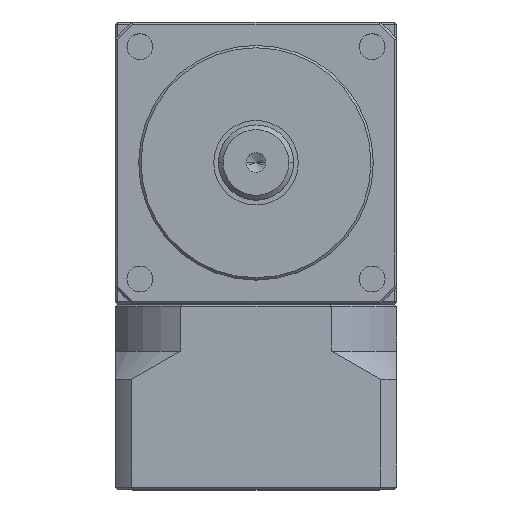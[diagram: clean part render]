
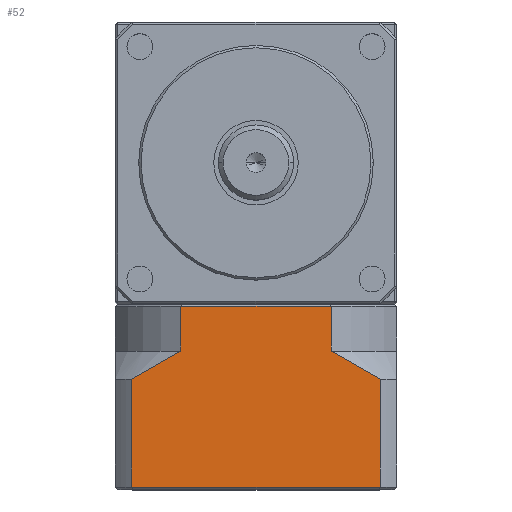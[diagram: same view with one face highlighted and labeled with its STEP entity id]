
A CAD part, top view. The second image highlights one B-rep face of the part: STEP entity #52.
In plain terms, the highlighted planar face has unit normal (0, 0, 1).
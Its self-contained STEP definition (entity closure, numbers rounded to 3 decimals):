
#52 = ADVANCED_FACE ( 'NONE', ( #3529 ), #5152, .F. ) ;
#1469 = AXIS2_PLACEMENT_3D ( 'NONE', #5127, #5137, #5184 ) ;
#1486 = CARTESIAN_POINT ( 'NONE',  ( 16., -40., -17. ) ) ;
#1534 = CARTESIAN_POINT ( 'NONE',  ( -26.458, -69., -17. ) ) ;
#1538 = CARTESIAN_POINT ( 'NONE',  ( -16., -30.5, -17. ) ) ;
#1540 = CARTESIAN_POINT ( 'NONE',  ( 26.458, -69., -17. ) ) ;
#1541 = CARTESIAN_POINT ( 'NONE',  ( 26.458, -46., -17. ) ) ;
#1549 = CARTESIAN_POINT ( 'NONE',  ( -26.458, -46., -17. ) ) ;
#1551 = CARTESIAN_POINT ( 'NONE',  ( -16., -40., -17. ) ) ;
#1553 = CARTESIAN_POINT ( 'NONE',  ( 16., -30.5, -17. ) ) ;
#1935 = VERTEX_POINT ( 'NONE', #1486 ) ;
#1941 = VERTEX_POINT ( 'NONE', #1534 ) ;
#1945 = VERTEX_POINT ( 'NONE', #1538 ) ;
#2419 = ORIENTED_EDGE ( 'NONE', *, *, #4871, .F. ) ;
#2420 = ORIENTED_EDGE ( 'NONE', *, *, #4872, .T. ) ;
#2421 = ORIENTED_EDGE ( 'NONE', *, *, #4873, .F. ) ;
#2422 = ORIENTED_EDGE ( 'NONE', *, *, #4874, .F. ) ;
#2423 = ORIENTED_EDGE ( 'NONE', *, *, #4875, .F. ) ;
#2424 = ORIENTED_EDGE ( 'NONE', *, *, #4876, .T. ) ;
#2425 = ORIENTED_EDGE ( 'NONE', *, *, #4877, .F. ) ;
#2426 = ORIENTED_EDGE ( 'NONE', *, *, #4878, .F. ) ;
#2668 = VERTEX_POINT ( 'NONE', #1540 ) ;
#2669 = VERTEX_POINT ( 'NONE', #1551 ) ;
#2670 = VERTEX_POINT ( 'NONE', #1541 ) ;
#2727 = VERTEX_POINT ( 'NONE', #1553 ) ;
#2786 = VERTEX_POINT ( 'NONE', #1549 ) ;
#3529 = FACE_OUTER_BOUND ( 'NONE', #6726, .T. ) ;
#4156 = LINE ( 'NONE', #5457, #4167 ) ;
#4164 = LINE ( 'NONE', #5466, #4169 ) ;
#4166 = LINE ( 'NONE', #5458, #4171 ) ;
#4167 = VECTOR ( 'NONE', #5465, 1000. ) ;
#4169 = VECTOR ( 'NONE', #5468, 1000. ) ;
#4170 = LINE ( 'NONE', #5480, #4175 ) ;
#4171 = VECTOR ( 'NONE', #5469, 1000. ) ;
#4172 = LINE ( 'NONE', #5478, #4173 ) ;
#4173 = VECTOR ( 'NONE', #5479, 1000. ) ;
#4174 = LINE ( 'NONE', #5482, #4177 ) ;
#4175 = VECTOR ( 'NONE', #5481, 1000. ) ;
#4177 = VECTOR ( 'NONE', #5483, 1000. ) ;
#4871 = EDGE_CURVE ( 'NONE', #1941, #2786, #4156, .T. ) ;
#4872 = EDGE_CURVE ( 'NONE', #1941, #2668, #4164, .T. ) ;
#4873 = EDGE_CURVE ( 'NONE', #2670, #2668, #4166, .T. ) ;
#4874 = EDGE_CURVE ( 'NONE', #1935, #2670, #6250, .T. ) ;
#4875 = EDGE_CURVE ( 'NONE', #2727, #1935, #4172, .T. ) ;
#4876 = EDGE_CURVE ( 'NONE', #2727, #1945, #4170, .T. ) ;
#4877 = EDGE_CURVE ( 'NONE', #2669, #1945, #4174, .T. ) ;
#4878 = EDGE_CURVE ( 'NONE', #2786, #2669, #6251, .T. ) ;
#5127 = CARTESIAN_POINT ( 'NONE',  ( 30., -69.5, -17. ) ) ;
#5137 = DIRECTION ( 'NONE',  ( 0., 0., -1. ) ) ;
#5152 = PLANE ( 'NONE',  #1469 ) ;
#5184 = DIRECTION ( 'NONE',  ( -1., 0., 0. ) ) ;
#5456 = CARTESIAN_POINT ( 'NONE',  ( 17.813, -40.853, -17. ) ) ;
#5457 = CARTESIAN_POINT ( 'NONE',  ( -26.458, -30., -17. ) ) ;
#5458 = CARTESIAN_POINT ( 'NONE',  ( 26.458, -30., -17. ) ) ;
#5465 = DIRECTION ( 'NONE',  ( 0., 1., 0. ) ) ;
#5466 = CARTESIAN_POINT ( 'NONE',  ( 26.458, -69., -17. ) ) ;
#5467 = CARTESIAN_POINT ( 'NONE',  ( 16., -40., -17. ) ) ;
#5468 = DIRECTION ( 'NONE',  ( 1., 0., 0. ) ) ;
#5469 = DIRECTION ( 'NONE',  ( 0., -1., 0. ) ) ;
#5470 = CARTESIAN_POINT ( 'NONE',  ( -24.785, -44.894, -17. ) ) ;
#5471 = CARTESIAN_POINT ( 'NONE',  ( -26.458, -46., -17. ) ) ;
#5472 = CARTESIAN_POINT ( 'NONE',  ( 19.586, -41.799, -17. ) ) ;
#5473 = CARTESIAN_POINT ( 'NONE',  ( 22.204, -43.316, -17. ) ) ;
#5474 = CARTESIAN_POINT ( 'NONE',  ( 23.068, -43.838, -17. ) ) ;
#5475 = CARTESIAN_POINT ( 'NONE',  ( 24.776, -44.902, -17. ) ) ;
#5476 = CARTESIAN_POINT ( 'NONE',  ( 25.62, -45.446, -17. ) ) ;
#5477 = CARTESIAN_POINT ( 'NONE',  ( 26.458, -46., -17. ) ) ;
#5478 = CARTESIAN_POINT ( 'NONE',  ( 16., -40., -17. ) ) ;
#5479 = DIRECTION ( 'NONE',  ( 0., -1., 0. ) ) ;
#5480 = CARTESIAN_POINT ( 'NONE',  ( 30., -30.5, -17. ) ) ;
#5481 = DIRECTION ( 'NONE',  ( -1., 0., 0. ) ) ;
#5482 = CARTESIAN_POINT ( 'NONE',  ( -16., -40., -17. ) ) ;
#5483 = DIRECTION ( 'NONE',  ( 0., 1., 0. ) ) ;
#5484 = CARTESIAN_POINT ( 'NONE',  ( -23.086, -43.828, -17. ) ) ;
#5485 = CARTESIAN_POINT ( 'NONE',  ( -20.479, -42.316, -17. ) ) ;
#5486 = CARTESIAN_POINT ( 'NONE',  ( -19.6, -41.827, -17. ) ) ;
#5487 = CARTESIAN_POINT ( 'NONE',  ( -17.819, -40.885, -17. ) ) ;
#5488 = CARTESIAN_POINT ( 'NONE',  ( -16.914, -40.43, -17. ) ) ;
#5489 = CARTESIAN_POINT ( 'NONE',  ( -16., -40., -17. ) ) ;
#6250 = B_SPLINE_CURVE_WITH_KNOTS ( 'NONE', 3,
 ( #5467, #5456, #5472, #5473, #5474, #5475, #5476, #5477 ),
 .UNSPECIFIED., .F., .F.,
 ( 4, 2, 2, 4 ),
 ( 0.089, 0.095, 0.098, 0.101 ),
 .UNSPECIFIED. ) ;
#6251 = B_SPLINE_CURVE_WITH_KNOTS ( 'NONE', 3,
 ( #5471, #5470, #5484, #5485, #5486, #5487, #5488, #5489 ),
 .UNSPECIFIED., .F., .F.,
 ( 4, 2, 2, 4 ),
 ( 0.044, 0.05, 0.053, 0.056 ),
 .UNSPECIFIED. ) ;
#6726 = EDGE_LOOP ( 'NONE', ( #2419, #2420, #2421, #2422, #2423, #2424, #2425, #2426 ) ) ;
